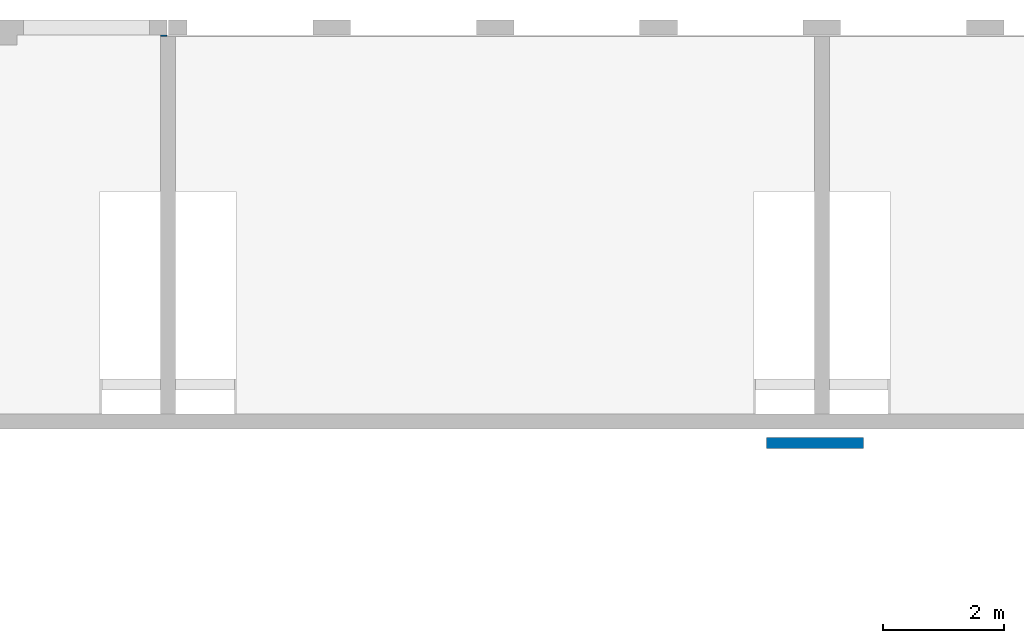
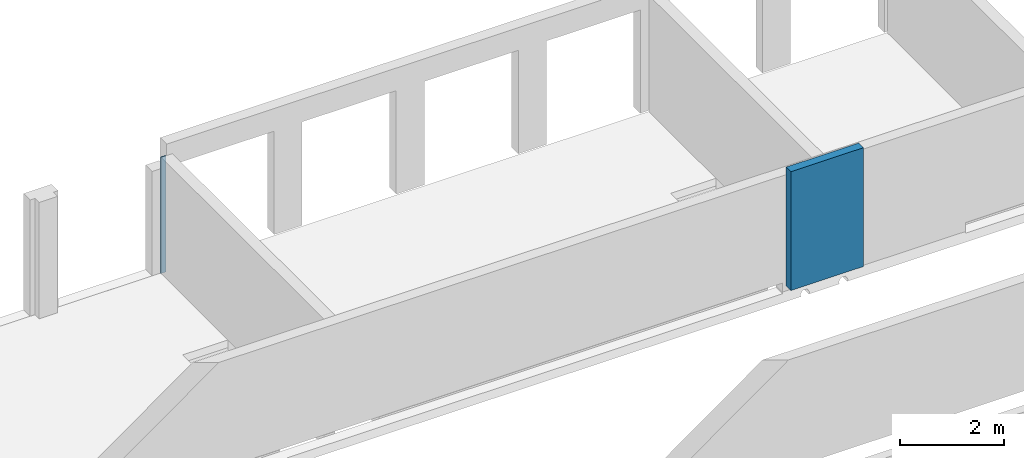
# One storey, part 14 of 18: 2 walls.
"""IFC2X3 building model written with IfcOpenShell, lengths in millimetres."""

from ifc_helpers import new_model, entity, si_unit, converted_unit, derived_unit, direction, frame, frame_2d, origin, place, context, subcontext, project, spatial, rectangle, extrude, material, layer, layer_set, layer_usage, type_object, element, save


model = new_model("IFC2X3")

# Units and contexts
model_context = context("Model", 3, precision=0.01, world=origin(), true_north=direction((6.12303176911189e-17, 1.0)))
body_context = subcontext(model_context, "Body", "Model", "MODEL_VIEW")
ifc_project = project(units=[si_unit("LENGTHUNIT", "METRE", prefix="MILLI"), si_unit("AREAUNIT", "SQUARE_METRE"), si_unit("VOLUMEUNIT", "CUBIC_METRE"), converted_unit("PLANEANGLEUNIT", "DEGREE", entity("IfcRatioMeasure", 0.0174532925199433), si_unit("PLANEANGLEUNIT", "RADIAN"), dimensions=[0, 0, 0, 0, 0, 0, 0]), si_unit("MASSUNIT", "GRAM", prefix="KILO"), derived_unit("MASSDENSITYUNIT", [(si_unit("MASSUNIT", "GRAM", prefix="KILO"), 1), (si_unit("LENGTHUNIT", "METRE"), -3)]), si_unit("TIMEUNIT", "SECOND"), si_unit("FREQUENCYUNIT", "HERTZ"), si_unit("THERMODYNAMICTEMPERATUREUNIT", "DEGREE_CELSIUS"), derived_unit("THERMALTRANSMITTANCEUNIT", [(si_unit("MASSUNIT", "GRAM", prefix="KILO"), 1), (si_unit("THERMODYNAMICTEMPERATUREUNIT", "KELVIN"), -1), (si_unit("TIMEUNIT", "SECOND"), -3)]), derived_unit("VOLUMETRICFLOWRATEUNIT", [(si_unit("LENGTHUNIT", "METRE"), 3), (si_unit("TIMEUNIT", "SECOND"), -1)]), si_unit("ELECTRICCURRENTUNIT", "AMPERE"), si_unit("ELECTRICVOLTAGEUNIT", "VOLT"), si_unit("POWERUNIT", "WATT"), si_unit("FORCEUNIT", "NEWTON", prefix="KILO"), si_unit("ILLUMINANCEUNIT", "LUX"), si_unit("LUMINOUSFLUXUNIT", "LUMEN"), si_unit("LUMINOUSINTENSITYUNIT", "CANDELA"), derived_unit("USERDEFINED", [(si_unit("MASSUNIT", "GRAM", prefix="KILO"), -1), (si_unit("LENGTHUNIT", "METRE"), -2), (si_unit("TIMEUNIT", "SECOND"), 3), (si_unit("LUMINOUSFLUXUNIT", "LUMEN"), 1)]), derived_unit("LINEARVELOCITYUNIT", [(si_unit("LENGTHUNIT", "METRE"), 1), (si_unit("TIMEUNIT", "SECOND"), -1)]), si_unit("PRESSUREUNIT", "PASCAL"), derived_unit("USERDEFINED", [(si_unit("LENGTHUNIT", "METRE"), -2), (si_unit("MASSUNIT", "GRAM", prefix="KILO"), 1), (si_unit("TIMEUNIT", "SECOND"), -2)])], contexts=[model_context])

# Site, building, storey
site_placement = place(None, origin())
site = spatial("IfcSite", under=ifc_project, at=site_placement, Name="Default", CompositionType="ELEMENT")
building_placement = place(site_placement, origin())
building = spatial("IfcBuilding", under=site, at=building_placement, Name="niet gebruiken", CompositionType="ELEMENT")
storey_placement = place(building_placement, frame((0.0, 0.0, 3690.0)))
storey = spatial("IfcBuildingStorey", under=building, at=storey_placement, Name="01 eerste verdieping", CompositionType="ELEMENT", Elevation=3690.00000000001)

# Walls
ifc_material_1 = material(Name="NLRS_f2_beton prefab")
ifc_layer_1 = layer(ifc_material_1, 180.0)
ifc_layer_set_1 = layer_set([ifc_layer_1], Name="Basic Wall:NLRS_22.21_WA_beton prefab d=180_gen")
ifc_layer_usage_1 = layer_usage(ifc_layer_set_1, "AXIS2", "NEGATIVE", 90.0)
wall_type_1 = type_object("IfcWallType", Name="Basic Wall:NLRS_22.21_WA_beton prefab d=180_gen", PredefinedType="STANDARD", material=ifc_layer_set_1)
wall_1_placement = place(storey_placement, frame((117880.0, 46266.0, 140.0)))
element("IfcWallStandardCase", 1, at=wall_1_placement, inside=storey, type_object=wall_type_1, material=ifc_layer_usage_1, Name="Basic Wall:NLRS_22.21_WA_beton prefab d=180_gen", ObjectType="Basic Wall:NLRS_22.21_WA_beton prefab d=180_gen", context=body_context, shape_type="SweptSolid", body=[
    extrude(rectangle(XDim=1605.00000000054, YDim=179.999999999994, at=frame_2d((802.500000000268, 0.0), x_axis=(-1.0, 0.0))), origin(), (0.0, 0.0, 1.0), 2780.0),
])
ifc_material_2 = material(Name="NLRS_f2_beton ihwg")
ifc_layer_2 = layer(ifc_material_2, 105.0)
ifc_layer_set_2 = layer_set([ifc_layer_2], Name="Basic Wall:NLRS_22.21_WA_beton ihwg d=105_gen")
ifc_layer_usage_2 = layer_usage(ifc_layer_set_2, "AXIS2", "NEGATIVE", 52.5)
wall_type_2 = type_object("IfcWallType", Name="Basic Wall:NLRS_22.21_WA_beton ihwg d=105_gen", PredefinedType="STANDARD", material=ifc_layer_set_2)
wall_2_placement = place(storey_placement, frame((107927.499999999, 52986.0, -90.0), z_axis=(0.0, 0.0, 1.0), x_axis=(0.0, 1.0, 0.0)))
element("IfcWallStandardCase", 2, at=wall_2_placement, inside=storey, type_object=wall_type_2, material=ifc_layer_usage_2, Name="Basic Wall:NLRS_22.21_WA_beton ihwg d=105_gen", ObjectType="Basic Wall:NLRS_22.21_WA_beton ihwg d=105_gen", context=body_context, shape_type="SweptSolid", body=[
    extrude(rectangle(XDim=20.0000000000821, YDim=104.999999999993, at=frame_2d((10.000000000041, 1.77635683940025e-14), x_axis=(-1.0, 0.0))), origin(), (0.0, 0.0, 1.0), 2720.00000000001),
])

save(model, "model.ifc")
